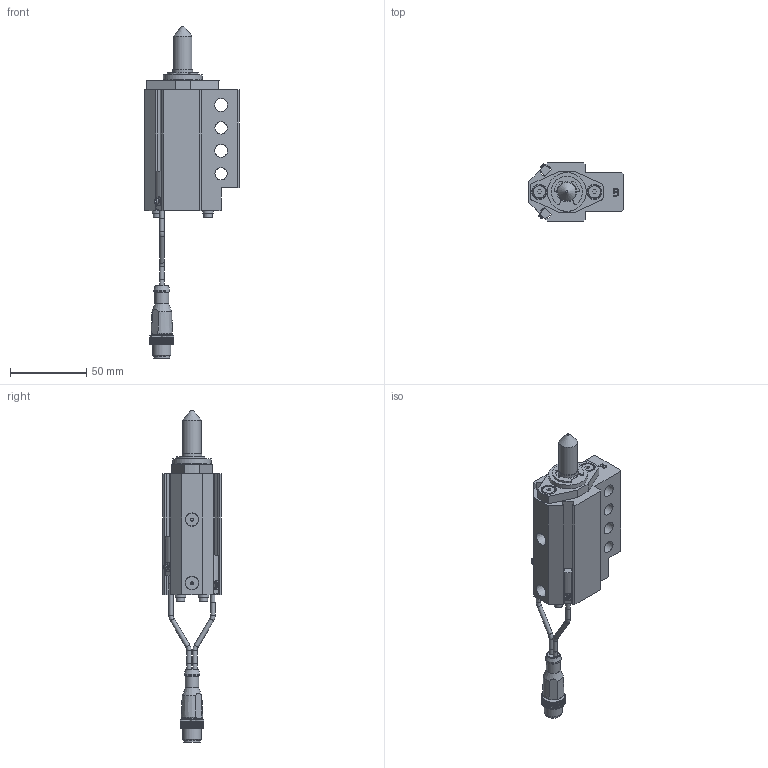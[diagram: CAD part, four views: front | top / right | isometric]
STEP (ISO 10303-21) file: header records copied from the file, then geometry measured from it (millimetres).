
FILE_DESCRIPTION(/* description */ ('NAAMS FLOATING MICRO PIN'),/* implementation_level */ '2;1');
FILE_NAME(/* name */ 'C:\Vault Workspace\CAD\Welker\Shot Pin\NMP\NMP120022ABNL3.stp',/* time_stamp */ '2021-01-27T10:21:16-05:00',/* author */ ('WELKER'),/* organization */ (''),/* preprocessor_version */ 'ST-DEVELOPER v18.1',/* originating_system */ 'Autodesk Inventor 2020',/* authorisation */ '');
FILE_SCHEMA (('AUTOMOTIVE_DESIGN { 1 0 10303 214 3 1 1 }'));
Length unit declared in the file: millimetre
Products named in the file (16): NMPL01; NMP L3 SWITCH; L3 Connector; L3 Sensor 1; L3 Sensor 2; L3 Sensor cable; L3 Sensor cable 2; M3X0.5-8 SHCS; NL3; NMPE06; NMPE03; NMPE05-DIA-LENGTH; 985432A218; NMPE01B-PORT; RMPE02; M5X5 SHOULDER
Assembly tree (22 placements, depth 3):
  NMPL01
    NMP L3 SWITCH
      L3 Connector
      L3 Sensor 1
      L3 Sensor 2
      L3 Sensor cable
      L3 Sensor cable 2
    M3X0.5-8 SHCS  x4
    NL3  x4
    NMPE06
    NMPE03
    NMPE05-DIA-LENGTH
    985432A218
    NMPE01B-PORT
    RMPE02
    M5X5 SHOULDER  x2
Bounding box: 62 x 38.1 x 217.12 mm (x, y, z)
Volume: 112570.4 mm3; surface area: 45699.1 mm2
Topology: 21 solids, 21 shells, 758 faces, 2052 edges, 1372 vertices
Faces by surface type: plane 553, cylinder 144, cone 31, bspline 16, torus 11, sphere 3
Full cylindrical faces by diameter (mm): 2 x2, 2.459 x4, 2.9 x10, 3 x5, 3.242 x2, 3.4 x4, 4 x2, 5 x6, 5.5 x4, 7 x4, 8 x2, 8.3 x2, 8.376 x2, 9 x3, 10 x3, 10.4 x1, 10.5 x1, 12 x2, 13 x3, 16 x2, 19.05 x3, 21 x1, 22.5 x1, 23.672 x1, 24 x1, 25.4 x1, 25.5 x1, 26.5 x1, 28.677 x1, 29.21 x1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
Entity records: 23201 total; most frequent: CARTESIAN_POINT 4367, ORIENTED_EDGE 3802, DIRECTION 3727, EDGE_CURVE 1901, LINE 1393, VECTOR 1393, VERTEX_POINT 1277, AXIS2_PLACEMENT_3D 1167
